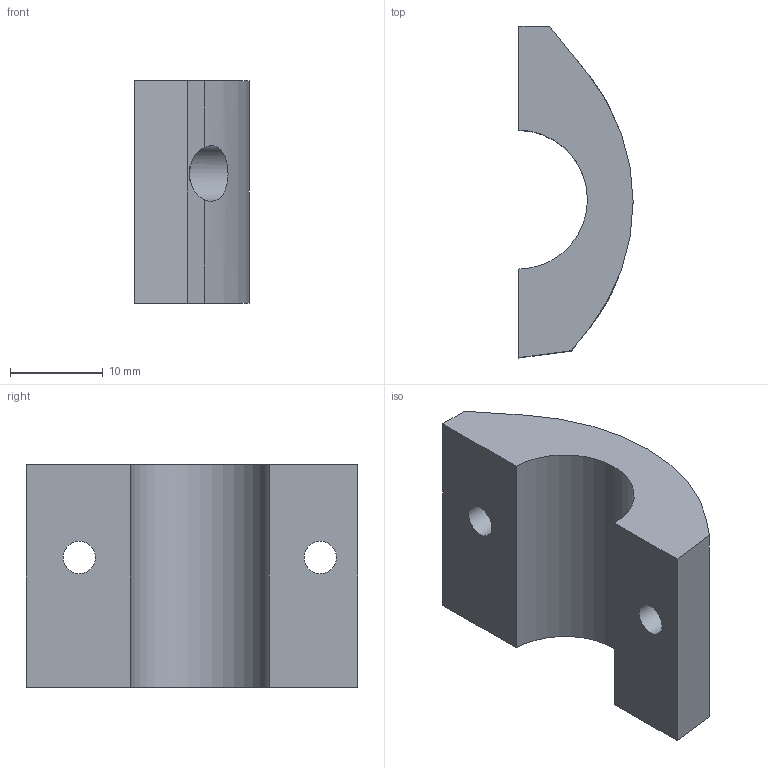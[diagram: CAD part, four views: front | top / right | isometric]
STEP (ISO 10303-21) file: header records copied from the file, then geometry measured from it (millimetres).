
FILE_DESCRIPTION(/* description */ (''),/* implementation_level */ '2;1');
FILE_NAME(/* name */ 'FR Z to Bed Clamp.step',/* time_stamp */ '2023-03-23T06:33:09-06:00',/* author */ (''),/* organization */ (''),/* preprocessor_version */ 'ST-DEVELOPER v19.2',/* originating_system */ 'Autodesk Translation Framework v11.17.0.187',/* authorisation */ '');
FILE_SCHEMA (('AUTOMOTIVE_DESIGN { 1 0 10303 214 3 1 1 }'));
Length unit declared in the file: millimetre
Products named in the file (2): FR Z to Bed Clamp; FR Z to Bed 2
Assembly tree (1 placements, depth 2):
  FR Z to Bed Clamp
    FR Z to Bed 2
Bounding box: 12.32 x 35.79 x 24 mm (x, y, z)
Volume: 5902.5 mm3; surface area: 2888.2 mm2
Topology: 1 solids, 1 shells, 16 faces, 42 edges, 28 vertices
Faces by surface type: plane 10, cylinder 6
Full cylindrical faces by diameter (mm): 3.5 x2, 6 x1
Entity records: 604 total; most frequent: CARTESIAN_POINT 132, DIRECTION 90, ORIENTED_EDGE 84, EDGE_CURVE 42, AXIS2_PLACEMENT_3D 32, VERTEX_POINT 28, LINE 26, VECTOR 26
